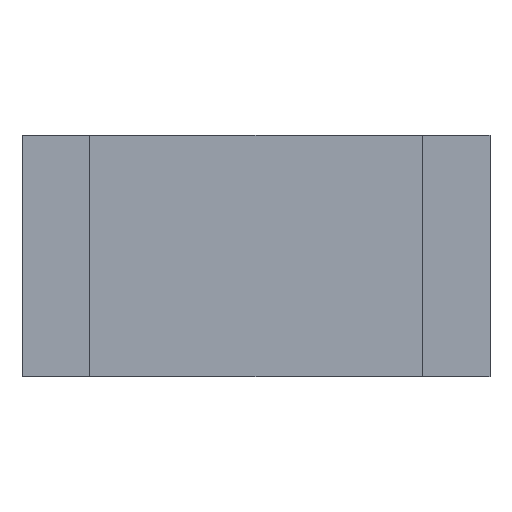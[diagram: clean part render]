
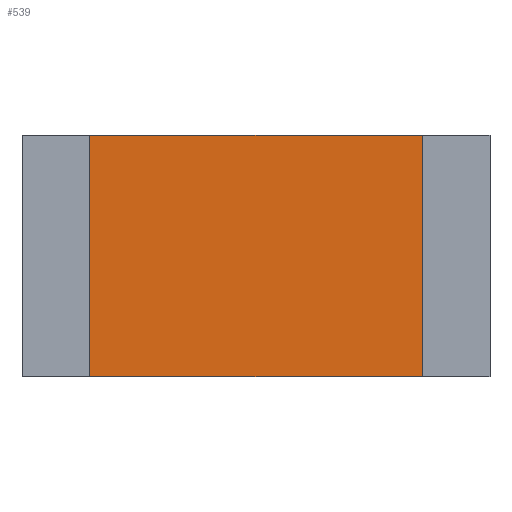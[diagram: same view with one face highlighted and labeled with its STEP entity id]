
A CAD part, front view. The second image highlights one B-rep face of the part: STEP entity #539.
In plain terms, the highlighted planar face has unit normal (0, -1, 0).
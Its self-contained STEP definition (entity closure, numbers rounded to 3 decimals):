
#32 = PLANE('',#33);
#33 = AXIS2_PLACEMENT_3D('',#34,#35,#36);
#34 = CARTESIAN_POINT('',(0.,0.275,-0.8));
#35 = DIRECTION('',(0.,0.,-1.));
#36 = DIRECTION('',(0.,1.,0.));
#136 = VERTEX_POINT('',#137);
#137 = CARTESIAN_POINT('',(1.1,0.15,-0.8));
#158 = EDGE_CURVE('',#136,#159,#161,.T.);
#159 = VERTEX_POINT('',#160);
#160 = CARTESIAN_POINT('',(-1.1,0.15,-0.8));
#161 = SURFACE_CURVE('',#162,(#166,#173),.PCURVE_S1.);
#162 = LINE('',#163,#164);
#163 = CARTESIAN_POINT('',(1.4,0.15,-0.8));
#164 = VECTOR('',#165,1.);
#165 = DIRECTION('',(-1.,0.,0.));
#166 = PCURVE('',#32,#167);
#167 = DEFINITIONAL_REPRESENTATION('',(#168),#172);
#168 = LINE('',#169,#170);
#169 = CARTESIAN_POINT('',(-0.125,1.4));
#170 = VECTOR('',#171,1.);
#171 = DIRECTION('',(0.,-1.));
#172 = ( GEOMETRIC_REPRESENTATION_CONTEXT(2) 
PARAMETRIC_REPRESENTATION_CONTEXT() REPRESENTATION_CONTEXT('2D SPACE',''
  ) );
#173 = PCURVE('',#174,#179);
#174 = PLANE('',#175);
#175 = AXIS2_PLACEMENT_3D('',#176,#177,#178);
#176 = CARTESIAN_POINT('',(1.4,0.15,-0.8));
#177 = DIRECTION('',(0.,-1.,0.));
#178 = DIRECTION('',(-1.,0.,0.));
#179 = DEFINITIONAL_REPRESENTATION('',(#180),#184);
#180 = LINE('',#181,#182);
#181 = CARTESIAN_POINT('',(0.,-0.));
#182 = VECTOR('',#183,1.);
#183 = DIRECTION('',(1.,0.));
#184 = ( GEOMETRIC_REPRESENTATION_CONTEXT(2) 
PARAMETRIC_REPRESENTATION_CONTEXT() REPRESENTATION_CONTEXT('2D SPACE',''
  ) );
#333 = PLANE('',#334);
#334 = AXIS2_PLACEMENT_3D('',#335,#336,#337);
#335 = CARTESIAN_POINT('',(-1.1,0.,-0.8));
#336 = DIRECTION('',(-1.,0.,0.));
#337 = DIRECTION('',(0.,1.,0.));
#524 = PLANE('',#525);
#525 = AXIS2_PLACEMENT_3D('',#526,#527,#528);
#526 = CARTESIAN_POINT('',(1.1,0.,-0.8));
#527 = DIRECTION('',(-1.,0.,0.));
#528 = DIRECTION('',(0.,1.,0.));
#539 = ADVANCED_FACE('',(#540),#174,.T.);
#540 = FACE_BOUND('',#541,.T.);
#541 = EDGE_LOOP('',(#542,#543,#566,#594));
#542 = ORIENTED_EDGE('',*,*,#158,.F.);
#543 = ORIENTED_EDGE('',*,*,#544,.T.);
#544 = EDGE_CURVE('',#136,#545,#547,.T.);
#545 = VERTEX_POINT('',#546);
#546 = CARTESIAN_POINT('',(1.1,0.15,0.8));
#547 = SURFACE_CURVE('',#548,(#552,#559),.PCURVE_S1.);
#548 = LINE('',#549,#550);
#549 = CARTESIAN_POINT('',(1.1,0.15,-0.8));
#550 = VECTOR('',#551,1.);
#551 = DIRECTION('',(0.,0.,1.));
#552 = PCURVE('',#174,#553);
#553 = DEFINITIONAL_REPRESENTATION('',(#554),#558);
#554 = LINE('',#555,#556);
#555 = CARTESIAN_POINT('',(0.3,0.));
#556 = VECTOR('',#557,1.);
#557 = DIRECTION('',(0.,-1.));
#558 = ( GEOMETRIC_REPRESENTATION_CONTEXT(2) 
PARAMETRIC_REPRESENTATION_CONTEXT() REPRESENTATION_CONTEXT('2D SPACE',''
  ) );
#559 = PCURVE('',#524,#560);
#560 = DEFINITIONAL_REPRESENTATION('',(#561),#565);
#561 = LINE('',#562,#563);
#562 = CARTESIAN_POINT('',(0.15,0.));
#563 = VECTOR('',#564,1.);
#564 = DIRECTION('',(0.,-1.));
#565 = ( GEOMETRIC_REPRESENTATION_CONTEXT(2) 
PARAMETRIC_REPRESENTATION_CONTEXT() REPRESENTATION_CONTEXT('2D SPACE',''
  ) );
#566 = ORIENTED_EDGE('',*,*,#567,.T.);
#567 = EDGE_CURVE('',#545,#568,#570,.T.);
#568 = VERTEX_POINT('',#569);
#569 = CARTESIAN_POINT('',(-1.1,0.15,0.8));
#570 = SURFACE_CURVE('',#571,(#575,#582),.PCURVE_S1.);
#571 = LINE('',#572,#573);
#572 = CARTESIAN_POINT('',(1.4,0.15,0.8));
#573 = VECTOR('',#574,1.);
#574 = DIRECTION('',(-1.,0.,0.));
#575 = PCURVE('',#174,#576);
#576 = DEFINITIONAL_REPRESENTATION('',(#577),#581);
#577 = LINE('',#578,#579);
#578 = CARTESIAN_POINT('',(0.,-1.6));
#579 = VECTOR('',#580,1.);
#580 = DIRECTION('',(1.,0.));
#581 = ( GEOMETRIC_REPRESENTATION_CONTEXT(2) 
PARAMETRIC_REPRESENTATION_CONTEXT() REPRESENTATION_CONTEXT('2D SPACE',''
  ) );
#582 = PCURVE('',#583,#588);
#583 = PLANE('',#584);
#584 = AXIS2_PLACEMENT_3D('',#585,#586,#587);
#585 = CARTESIAN_POINT('',(0.,0.275,0.8));
#586 = DIRECTION('',(0.,0.,-1.));
#587 = DIRECTION('',(0.,1.,0.));
#588 = DEFINITIONAL_REPRESENTATION('',(#589),#593);
#589 = LINE('',#590,#591);
#590 = CARTESIAN_POINT('',(-0.125,1.4));
#591 = VECTOR('',#592,1.);
#592 = DIRECTION('',(0.,-1.));
#593 = ( GEOMETRIC_REPRESENTATION_CONTEXT(2) 
PARAMETRIC_REPRESENTATION_CONTEXT() REPRESENTATION_CONTEXT('2D SPACE',''
  ) );
#594 = ORIENTED_EDGE('',*,*,#595,.F.);
#595 = EDGE_CURVE('',#159,#568,#596,.T.);
#596 = SURFACE_CURVE('',#597,(#601,#608),.PCURVE_S1.);
#597 = LINE('',#598,#599);
#598 = CARTESIAN_POINT('',(-1.1,0.15,-0.8));
#599 = VECTOR('',#600,1.);
#600 = DIRECTION('',(0.,0.,1.));
#601 = PCURVE('',#174,#602);
#602 = DEFINITIONAL_REPRESENTATION('',(#603),#607);
#603 = LINE('',#604,#605);
#604 = CARTESIAN_POINT('',(2.5,0.));
#605 = VECTOR('',#606,1.);
#606 = DIRECTION('',(0.,-1.));
#607 = ( GEOMETRIC_REPRESENTATION_CONTEXT(2) 
PARAMETRIC_REPRESENTATION_CONTEXT() REPRESENTATION_CONTEXT('2D SPACE',''
  ) );
#608 = PCURVE('',#333,#609);
#609 = DEFINITIONAL_REPRESENTATION('',(#610),#614);
#610 = LINE('',#611,#612);
#611 = CARTESIAN_POINT('',(0.15,0.));
#612 = VECTOR('',#613,1.);
#613 = DIRECTION('',(0.,-1.));
#614 = ( GEOMETRIC_REPRESENTATION_CONTEXT(2) 
PARAMETRIC_REPRESENTATION_CONTEXT() REPRESENTATION_CONTEXT('2D SPACE',''
  ) );
